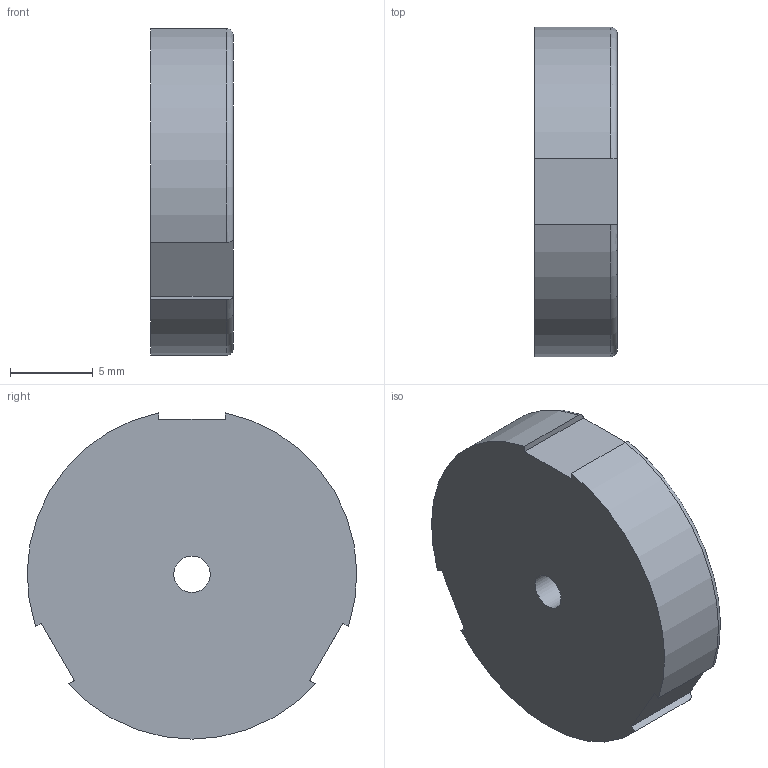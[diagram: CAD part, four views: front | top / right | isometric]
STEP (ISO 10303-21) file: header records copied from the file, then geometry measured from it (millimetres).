
FILE_DESCRIPTION(('Open CASCADE Model'),'2;1');
FILE_NAME('Open CASCADE Shape Model','2026-11-01T16:33:57',('Author'),( 'Open CASCADE'),'Open CASCADE STEP processor 8.0','build123d', 'Unknown');
FILE_SCHEMA(('AUTOMOTIVE_DESIGN { 1 0 10303 214 1 1 1 1 }'));
Length unit declared in the file: millimetre
Products named in the file (1): SOLID
Bounding box: 5 x 19.9 x 19.7 mm (x, y, z)
Volume: 1451.8 mm3; surface area: 979.5 mm2
Topology: 1 solids, 1 shells, 20 faces, 51 edges, 34 vertices
Faces by surface type: plane 12, cylinder 5, torus 3
Full cylindrical faces by diameter (mm): 2.2 x1, 5 x1
Entity records: 1573 total; most frequent: CARTESIAN_POINT 640, DIRECTION 136, ORIENTED_EDGE 102, PCURVE 102, DEFINITIONAL_REPRESENTATION 102, B_SPLINE_CURVE_WITH_KNOTS 72, LINE 58, VECTOR 58
